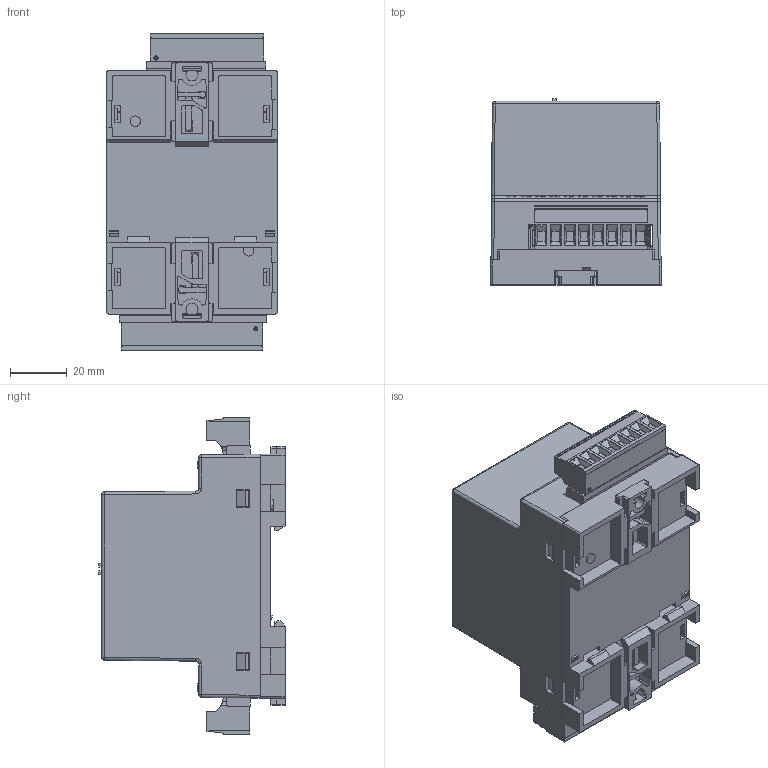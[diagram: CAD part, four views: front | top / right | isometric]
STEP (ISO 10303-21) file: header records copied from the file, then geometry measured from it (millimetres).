
FILE_DESCRIPTION (( 'STEP AP214' ), '1' );
FILE_NAME ('ISDUR4.STEP', '2020-11-16T00:36:12', ( '' ), ( '' ), 'SwSTEP 2.0', 'SolidWorks 2020', '' );
FILE_SCHEMA (( 'AUTOMOTIVE_DESIGN' ));
Length unit declared in the file: inch
Products named in the file (1): ISDUR4
Bounding box: 60 x 65.69 x 111.7 mm (x, y, z)
Volume: 66997.6 mm3; surface area: 83665.7 mm2
Topology: 27 solids, 36 shells, 5552 faces, 16981 edges, 11813 vertices
Faces by surface type: plane 3891, cylinder 1149, torus 202, bspline 152, cone 150, sphere 8
Entity records: 288917 total; most frequent: CARTESIAN_POINT 66500, ORIENTED_EDGE 33706, DIRECTION 27786, EDGE_CURVE 16853, VERTEX_POINT 11749, LINE 11690, VECTOR 11690, AXIS2_PLACEMENT_3D 8048
